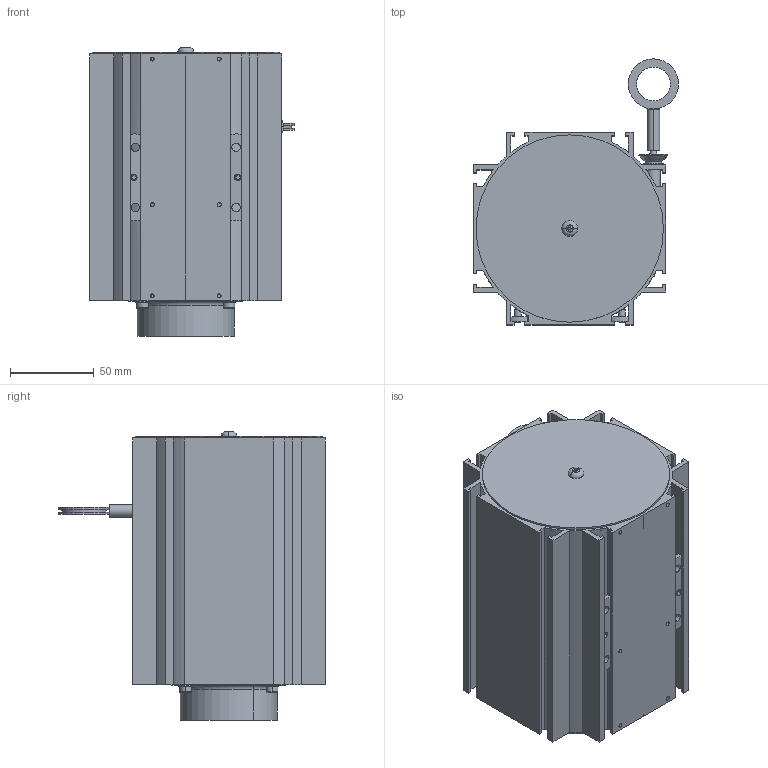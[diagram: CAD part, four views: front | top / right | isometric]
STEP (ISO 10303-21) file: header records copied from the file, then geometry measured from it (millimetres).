
FILE_DESCRIPTION((''),'2;1');
FILE_NAME('WDS_10000_P115_M_SO_SW0002','2010-10-12T',('15000261'),(''),'PRO/ENGINEER BY PARAMETRIC TECHNOLOGY CORPORATION, 2009440','PRO/ENGINEER BY PARAMETRIC TECHNOLOGY CORPORATION, 2009440','');
FILE_SCHEMA(('CONFIG_CONTROL_DESIGN'));
Length unit declared in the file: millimetre
Products named in the file (1): WDS_10000_P115_M_SO_SW0002
Bounding box: 122.5 x 159 x 172.45 mm (x, y, z)
Volume: 198313.6 mm3; surface area: 212323.5 mm2
Topology: 13 solids, 15 shells, 933 faces, 2602 edges, 1661 vertices
Faces by surface type: plane 517, cylinder 248, cone 68, torus 42, sphere 36, revolution 16, extrusion 4, bspline 2
Entity records: 33194 total; most frequent: CARTESIAN_POINT 9316, ORIENTED_EDGE 5100, DIRECTION 4852, EDGE_CURVE 2550, AXIS2_PLACEMENT_3D 1795, VERTEX_POINT 1661, VECTOR 1246, LINE 1242
